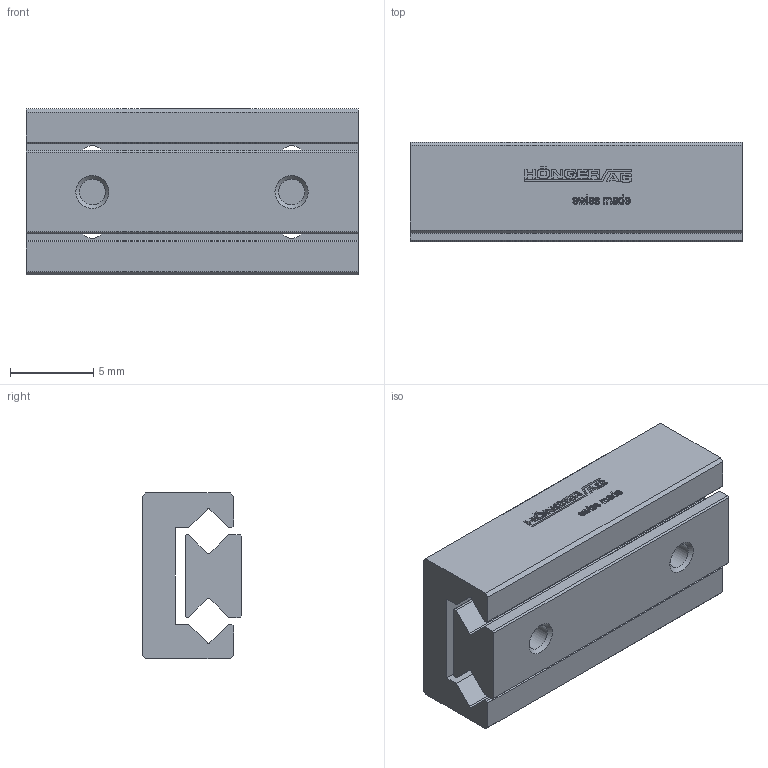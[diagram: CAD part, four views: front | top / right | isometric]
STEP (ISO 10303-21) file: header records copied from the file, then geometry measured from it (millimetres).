
FILE_DESCRIPTION(/* description */ ('STEP AP214'),/* implementation_level */ '2;1');
FILE_NAME(/* name */ 'MSR 5-20.15(0)',/* time_stamp */ '2025-04-16T17:17:39+02:00',/* author */ ('License CC BY-ND 4.0'),/* organization */ ('CADENAS'),/* preprocessor_version */ 'ST-DEVELOPER v19.3',/* originating_system */ 'PARTsolutions',/* authorisation */ ' ');
FILE_SCHEMA (('AUTOMOTIVE_DESIGN {1 0 10303 214 3 1 1}'));
Length unit declared in the file: millimetre
Products named in the file (3): MSR 5-20.15(0); MSR 5-20.15_1; MSR 5-20.15_2
Assembly tree (2 placements, depth 2):
  MSR 5-20.15(0)
    MSR 5-20.15_1
    MSR 5-20.15_2
Bounding box: 20 x 6 x 10 mm (x, y, z)
Volume: 884.7 mm3; surface area: 1307.2 mm2
Topology: 2 solids, 2 shells, 521 faces, 1466 edges, 976 vertices
Faces by surface type: cylinder 302, plane 211, cone 8
Full cylindrical faces by diameter (mm): 1.567 x6
Entity records: 17053 total; most frequent: DIRECTION 3108, CARTESIAN_POINT 2944, ORIENTED_EDGE 2896, EDGE_CURVE 1448, AXIS2_PLACEMENT_3D 1136, VERTEX_POINT 972, LINE 836, VECTOR 836
